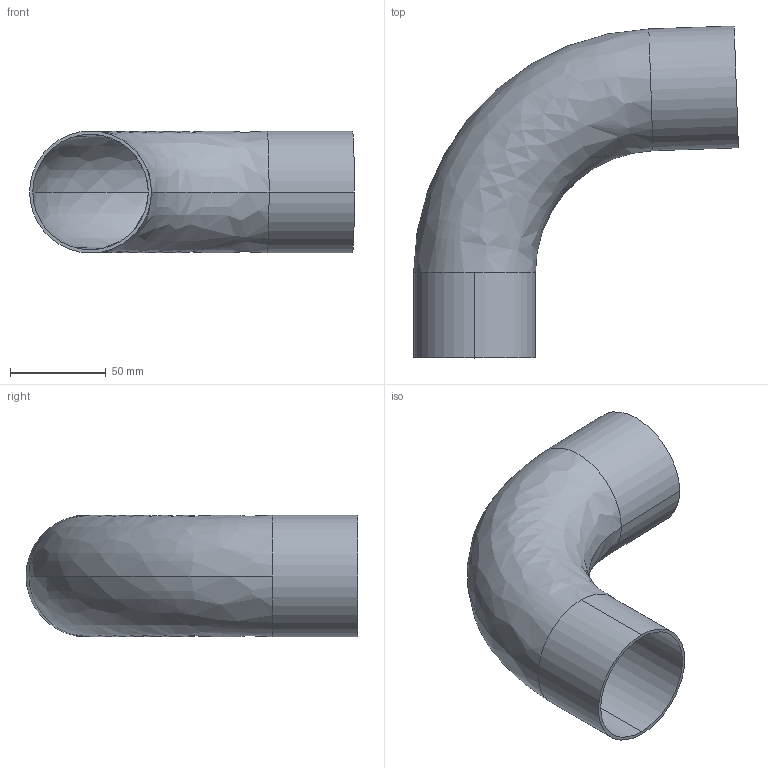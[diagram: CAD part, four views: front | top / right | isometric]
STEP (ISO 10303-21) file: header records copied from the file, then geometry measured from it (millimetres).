
FILE_DESCRIPTION (( 'STEP AP214' ), '1' );
FILE_NAME ('TE2S886L2.5-...STEP', '2016-05-22T08:45:31', ( 'eran' ), ( '' ), 'SwSTEP 2.0', 'SolidWorks 2016', '' );
FILE_SCHEMA (( 'AUTOMOTIVE_DESIGN' ));
Length unit declared in the file: millimetre
Products named in the file (1): TE2S886L2.5-..
Bounding box: 169.26 x 172.95 x 63.5 mm (x, y, z)
Volume: 75428.6 mm3; surface area: 92069.7 mm2
Topology: 1 solids, 1 shells, 14 faces, 32 edges, 20 vertices
Faces by surface type: cylinder 8, bspline 4, plane 2
Entity records: 490 total; most frequent: CARTESIAN_POINT 127, DIRECTION 78, ORIENTED_EDGE 64, AXIS2_PLACEMENT_3D 35, EDGE_CURVE 32, CIRCLE 24, VERTEX_POINT 20, EDGE_LOOP 16
